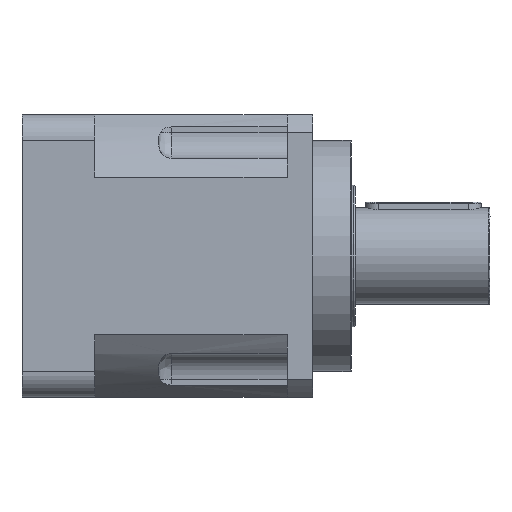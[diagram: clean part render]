
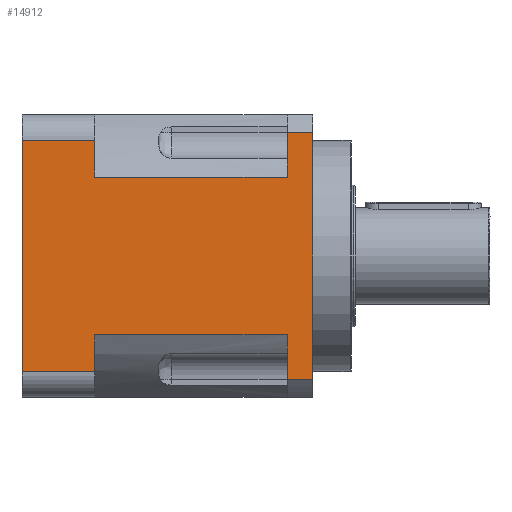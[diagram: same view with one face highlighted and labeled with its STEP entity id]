
A CAD part, front view. The second image highlights one B-rep face of the part: STEP entity #14912.
In plain terms, the highlighted planar face has unit normal (0, -1, 0).
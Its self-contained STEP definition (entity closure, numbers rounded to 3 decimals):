
#319 = VERTEX_POINT ( 'NONE', #27910 ) ;
#342 = VERTEX_POINT ( 'NONE', #8058 ) ;
#784 = DIRECTION ( 'NONE',  ( 1., 0., 0. ) ) ;
#1121 = PLANE ( 'NONE',  #20398 ) ;
#1240 = CARTESIAN_POINT ( 'NONE',  ( 0., -110., 96. ) ) ;
#1513 = VECTOR ( 'NONE', #7979, 1000. ) ;
#1548 = EDGE_CURVE ( 'NONE', #3809, #33269, #20885, .T. ) ;
#1954 = CARTESIAN_POINT ( 'NONE',  ( 0., -110., -96. ) ) ;
#2329 = DIRECTION ( 'NONE',  ( 0., 0., -1. ) ) ;
#3170 = DIRECTION ( 'NONE',  ( -1., 0., 0. ) ) ;
#3196 = DIRECTION ( 'NONE',  ( -1., 0., 0. ) ) ;
#3605 = DIRECTION ( 'NONE',  ( 1., 0., 0. ) ) ;
#3639 = ORIENTED_EDGE ( 'NONE', *, *, #4584, .T. ) ;
#3717 = VECTOR ( 'NONE', #3196, 1000. ) ;
#3809 = VERTEX_POINT ( 'NONE', #9306 ) ;
#3950 = DIRECTION ( 'NONE',  ( 0., 0., -1. ) ) ;
#3957 = DIRECTION ( 'NONE',  ( 0., -1., 0. ) ) ;
#4584 = EDGE_CURVE ( 'NONE', #12655, #23493, #9304, .T. ) ;
#4910 = VECTOR ( 'NONE', #784, 1000. ) ;
#5122 = CARTESIAN_POINT ( 'NONE',  ( -170., -110., -110. ) ) ;
#6956 = EDGE_CURVE ( 'NONE', #34101, #3809, #35593, .T. ) ;
#7245 = ORIENTED_EDGE ( 'NONE', *, *, #34858, .T. ) ;
#7336 = LINE ( 'NONE', #8010, #29094 ) ;
#7602 = VERTEX_POINT ( 'NONE', #35342 ) ;
#7979 = DIRECTION ( 'NONE',  ( -1., 0., 0. ) ) ;
#8010 = CARTESIAN_POINT ( 'NONE',  ( -20., -110., -110. ) ) ;
#8058 = CARTESIAN_POINT ( 'NONE',  ( -170., -110., -61.449 ) ) ;
#8083 = LINE ( 'NONE', #20929, #23181 ) ;
#8098 = EDGE_CURVE ( 'NONE', #342, #7602, #35253, .T. ) ;
#8154 = CARTESIAN_POINT ( 'NONE',  ( -20., -110., 61.449 ) ) ;
#9304 = LINE ( 'NONE', #31278, #23511 ) ;
#9306 = CARTESIAN_POINT ( 'NONE',  ( -170., -110., 90. ) ) ;
#9932 = DIRECTION ( 'NONE',  ( 1., 0., 0. ) ) ;
#11209 = VECTOR ( 'NONE', #9932, 1000. ) ;
#11247 = LINE ( 'NONE', #25873, #3717 ) ;
#11338 = ORIENTED_EDGE ( 'NONE', *, *, #6956, .T. ) ;
#11655 = ORIENTED_EDGE ( 'NONE', *, *, #21091, .T. ) ;
#12121 = CARTESIAN_POINT ( 'NONE',  ( 0., -110., -61.449 ) ) ;
#12352 = CARTESIAN_POINT ( 'NONE',  ( 0., -110., -110. ) ) ;
#12536 = ORIENTED_EDGE ( 'NONE', *, *, #36337, .T. ) ;
#12631 = VECTOR ( 'NONE', #3605, 1000. ) ;
#12655 = VERTEX_POINT ( 'NONE', #16033 ) ;
#13037 = CARTESIAN_POINT ( 'NONE',  ( -226.5, -110., -90. ) ) ;
#13307 = VECTOR ( 'NONE', #3170, 1000. ) ;
#14912 = ADVANCED_FACE ( 'NONE', ( #29955 ), #1121, .T. ) ;
#16033 = CARTESIAN_POINT ( 'NONE',  ( -20., -110., 96. ) ) ;
#16480 = DIRECTION ( 'NONE',  ( 0., 0., 1. ) ) ;
#16833 = VERTEX_POINT ( 'NONE', #1954 ) ;
#18746 = LINE ( 'NONE', #32636, #11209 ) ;
#18779 = EDGE_CURVE ( 'NONE', #16833, #29203, #27522, .T. ) ;
#19076 = VERTEX_POINT ( 'NONE', #24876 ) ;
#19388 = CARTESIAN_POINT ( 'NONE',  ( 0., -110., 90. ) ) ;
#19975 = LINE ( 'NONE', #34712, #4910 ) ;
#19981 = DIRECTION ( 'NONE',  ( 0., 0., -1. ) ) ;
#20215 = ORIENTED_EDGE ( 'NONE', *, *, #8098, .T. ) ;
#20307 = CARTESIAN_POINT ( 'NONE',  ( -170., -110., -110. ) ) ;
#20398 = AXIS2_PLACEMENT_3D ( 'NONE', #12352, #3957, #23793 ) ;
#20881 = ORIENTED_EDGE ( 'NONE', *, *, #22788, .T. ) ;
#20885 = LINE ( 'NONE', #19388, #13307 ) ;
#20929 = CARTESIAN_POINT ( 'NONE',  ( -226.5, -110., -110. ) ) ;
#21091 = EDGE_CURVE ( 'NONE', #29829, #19076, #19975, .T. ) ;
#22368 = CARTESIAN_POINT ( 'NONE',  ( -170., -110., 61.449 ) ) ;
#22788 = EDGE_CURVE ( 'NONE', #19076, #342, #35498, .T. ) ;
#23181 = VECTOR ( 'NONE', #3950, 1000. ) ;
#23493 = VERTEX_POINT ( 'NONE', #8154 ) ;
#23505 = CARTESIAN_POINT ( 'NONE',  ( 0., -110., -110. ) ) ;
#23511 = VECTOR ( 'NONE', #19981, 1000. ) ;
#23793 = DIRECTION ( 'NONE',  ( 0., 0., -1. ) ) ;
#24876 = CARTESIAN_POINT ( 'NONE',  ( -170., -110., -90. ) ) ;
#24995 = CARTESIAN_POINT ( 'NONE',  ( 0., -110., 96. ) ) ;
#25873 = CARTESIAN_POINT ( 'NONE',  ( 0., -110., 61.449 ) ) ;
#26242 = DIRECTION ( 'NONE',  ( 0., 0., 1. ) ) ;
#26625 = VECTOR ( 'NONE', #26242, 1000. ) ;
#27111 = VECTOR ( 'NONE', #16480, 1000. ) ;
#27522 = LINE ( 'NONE', #23505, #26625 ) ;
#27708 = ORIENTED_EDGE ( 'NONE', *, *, #35873, .T. ) ;
#27768 = ORIENTED_EDGE ( 'NONE', *, *, #29579, .T. ) ;
#27910 = CARTESIAN_POINT ( 'NONE',  ( -20., -110., -96. ) ) ;
#28087 = VECTOR ( 'NONE', #28893, 1000. ) ;
#28111 = LINE ( 'NONE', #24995, #1513 ) ;
#28712 = EDGE_CURVE ( 'NONE', #319, #16833, #18746, .T. ) ;
#28893 = DIRECTION ( 'NONE',  ( 0., 0., 1. ) ) ;
#29094 = VECTOR ( 'NONE', #2329, 1000. ) ;
#29203 = VERTEX_POINT ( 'NONE', #1240 ) ;
#29340 = ORIENTED_EDGE ( 'NONE', *, *, #18779, .T. ) ;
#29579 = EDGE_CURVE ( 'NONE', #23493, #34101, #11247, .T. ) ;
#29829 = VERTEX_POINT ( 'NONE', #13037 ) ;
#29955 = FACE_OUTER_BOUND ( 'NONE', #34617, .T. ) ;
#30449 = ORIENTED_EDGE ( 'NONE', *, *, #1548, .T. ) ;
#31278 = CARTESIAN_POINT ( 'NONE',  ( -20., -110., -110. ) ) ;
#32636 = CARTESIAN_POINT ( 'NONE',  ( 0., -110., -96. ) ) ;
#33269 = VERTEX_POINT ( 'NONE', #35060 ) ;
#34101 = VERTEX_POINT ( 'NONE', #22368 ) ;
#34617 = EDGE_LOOP ( 'NONE', ( #27708, #34940, #29340, #12536, #3639, #27768, #11338, #30449, #7245, #11655, #20881, #20215 ) ) ;
#34712 = CARTESIAN_POINT ( 'NONE',  ( 0., -110., -90. ) ) ;
#34858 = EDGE_CURVE ( 'NONE', #33269, #29829, #8083, .T. ) ;
#34940 = ORIENTED_EDGE ( 'NONE', *, *, #28712, .T. ) ;
#35060 = CARTESIAN_POINT ( 'NONE',  ( -226.5, -110., 90. ) ) ;
#35253 = LINE ( 'NONE', #12121, #12631 ) ;
#35342 = CARTESIAN_POINT ( 'NONE',  ( -20., -110., -61.449 ) ) ;
#35498 = LINE ( 'NONE', #5122, #27111 ) ;
#35593 = LINE ( 'NONE', #20307, #28087 ) ;
#35873 = EDGE_CURVE ( 'NONE', #7602, #319, #7336, .T. ) ;
#36337 = EDGE_CURVE ( 'NONE', #29203, #12655, #28111, .T. ) ;
